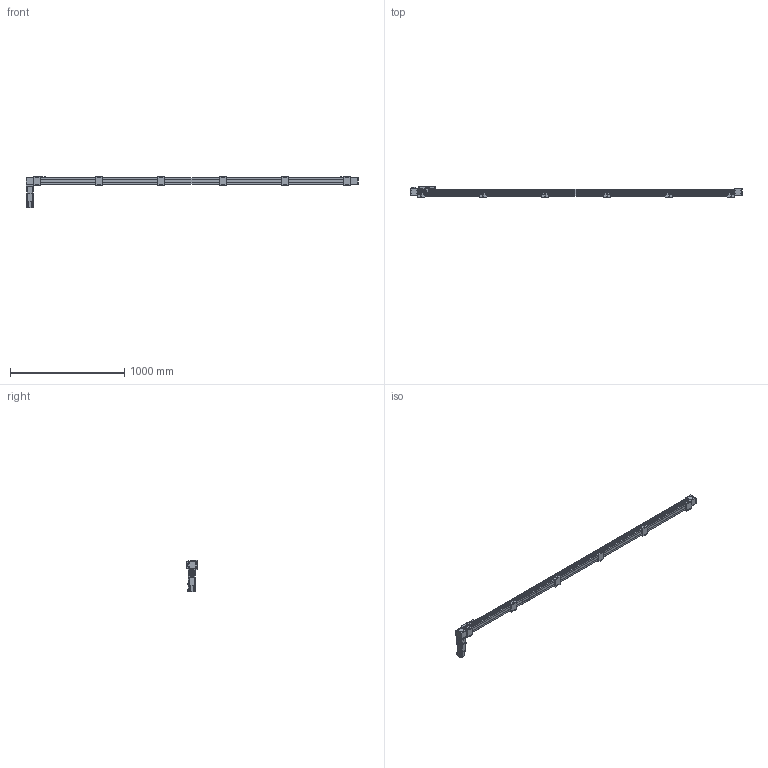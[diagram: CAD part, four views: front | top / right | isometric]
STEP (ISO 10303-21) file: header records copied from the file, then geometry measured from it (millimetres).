
FILE_DESCRIPTION(/* description */ ('STEP AP214'),/* implementation_level */ '2;1');
FILE_NAME(/* name */ 'SK60-P13-S2600-BR-T40-C1-N(0)',/* time_stamp */ '2023-04-06T04:03:10+02:00',/* author */ ('License CC BY-ND 4.0'),/* organization */ ('CADENAS'),/* preprocessor_version */ 'ST-DEVELOPER v19.3',/* originating_system */ 'PARTsolutions',/* authorisation */ ' ');
FILE_SCHEMA (('AUTOMOTIVE_DESIGN {1 0 10303 214 3 1 1}'));
Length unit declared in the file: millimetre
Products named in the file (11): SK60-P13-S2600-BR-T40-C1-N(0); PSC140-sensor; SK60-S450_seat; SK60-S450-BL-C1_slider; SK60_body3; SK60_body6; SK60-BL_body2; T40-p1; SK60_body5; SK60_body4; SK60-S2600-BR-C1_body
Assembly tree (21 placements, depth 2):
  SK60-P13-S2600-BR-T40-C1-N(0)
    PSC140-sensor  x3
    SK60-S450_seat  x6
    SK60-S450-BL-C1_slider
    SK60_body3  x3
    SK60_body6  x2
    SK60-BL_body2  x2
    T40-p1
    SK60_body5
    SK60_body4
    SK60-S2600-BR-C1_body
Bounding box: 2900 x 90 x 279.1 mm (x, y, z)
Volume: 10482386.9 mm3; surface area: 1281454.9 mm2
Topology: 21 solids, 25 shells, 1010 faces, 2501 edges, 1650 vertices
Faces by surface type: plane 640, cylinder 330, cone 38, torus 2
Full cylindrical faces by diameter (mm): 2.8 x3, 3.3 x4, 4.2 x8, 4.5 x26, 4.6 x3, 4.917 x32, 5 x2, 5.478 x4, 5.5 x35, 6.5 x12, 8 x4, 8.5 x4, 9.988 x4, 10 x24, 13.556 x1, 14 x1, 14.586 x1, 19.692 x1, 38.432 x2, 43 x1, 44 x3, 47 x2, 50 x2
Entity records: 19403 total; most frequent: DIRECTION 3300, CARTESIAN_POINT 3293, ORIENTED_EDGE 3050, EDGE_CURVE 1525, AXIS2_PLACEMENT_3D 1104, LINE 1092, VECTOR 1092, VERTEX_POINT 1077
